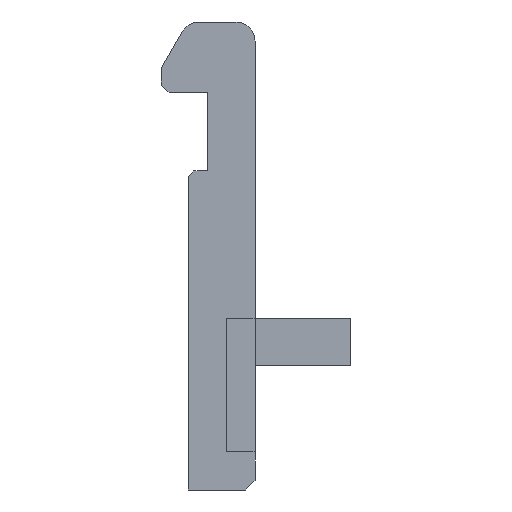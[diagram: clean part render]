
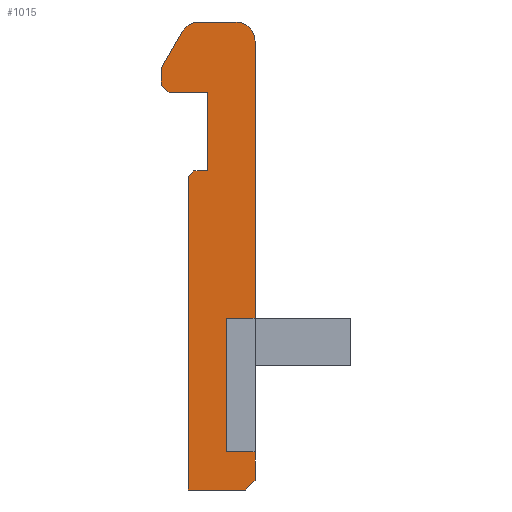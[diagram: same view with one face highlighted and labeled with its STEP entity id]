
A CAD part, front view. The second image highlights one B-rep face of the part: STEP entity #1015.
In plain terms, the highlighted planar face has unit normal (0, -1, 0).
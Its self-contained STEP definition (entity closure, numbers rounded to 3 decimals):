
#21 = VERTEX_POINT ( 'NONE', #244 ) ;
#25 = DIRECTION ( 'NONE',  ( 0., 0., -1. ) ) ;
#45 = CARTESIAN_POINT ( 'NONE',  ( -68.8, 50.05, 2. ) ) ;
#49 = VECTOR ( 'NONE', #1793, 1000. ) ;
#50 = CARTESIAN_POINT ( 'NONE',  ( -67.3, 50.05, 2. ) ) ;
#77 = VERTEX_POINT ( 'NONE', #1838 ) ;
#92 = CARTESIAN_POINT ( 'NONE',  ( -71.8, 50.05, 20.8 ) ) ;
#99 = DIRECTION ( 'NONE',  ( -1., 0., 0. ) ) ;
#101 = ORIENTED_EDGE ( 'NONE', *, *, #232, .T. ) ;
#201 = CARTESIAN_POINT ( 'NONE',  ( -69.8, 50.05, 20.8 ) ) ;
#227 = VERTEX_POINT ( 'NONE', #251 ) ;
#232 = EDGE_CURVE ( 'NONE', #959, #446, #1756, .T. ) ;
#233 = VERTEX_POINT ( 'NONE', #2008 ) ;
#244 = CARTESIAN_POINT ( 'NONE',  ( -72.2, 50.05, 22.1 ) ) ;
#251 = CARTESIAN_POINT ( 'NONE',  ( -67.3, 50.05, 0.5 ) ) ;
#293 = LINE ( 'NONE', #1269, #677 ) ;
#320 = EDGE_CURVE ( 'NONE', #388, #352, #1831, .T. ) ;
#321 = VERTEX_POINT ( 'NONE', #808 ) ;
#352 = VERTEX_POINT ( 'NONE', #1062 ) ;
#359 = DIRECTION ( 'NONE',  ( 0., 0., 1. ) ) ;
#370 = ORIENTED_EDGE ( 'NONE', *, *, #966, .T. ) ;
#388 = VERTEX_POINT ( 'NONE', #1730 ) ;
#400 = CARTESIAN_POINT ( 'NONE',  ( -69.8, 50.05, 16.7 ) ) ;
#405 = VECTOR ( 'NONE', #1283, 1000. ) ;
#429 = CARTESIAN_POINT ( 'NONE',  ( -67.3, 50.05, 9. ) ) ;
#430 = VERTEX_POINT ( 'NONE', #1437 ) ;
#438 = CARTESIAN_POINT ( 'NONE',  ( -72.2, 50.05, 21.2 ) ) ;
#446 = VERTEX_POINT ( 'NONE', #1677 ) ;
#529 = EDGE_CURVE ( 'NONE', #926, #815, #2028, .T. ) ;
#533 = ORIENTED_EDGE ( 'NONE', *, *, #320, .T. ) ;
#534 = ORIENTED_EDGE ( 'NONE', *, *, #529, .T. ) ;
#536 = EDGE_CURVE ( 'NONE', #815, #233, #2012, .T. ) ;
#552 = EDGE_CURVE ( 'NONE', #1460, #1445, #1908, .T. ) ;
#567 = EDGE_CURVE ( 'NONE', #1032, #21, #1909, .T. ) ;
#571 = DIRECTION ( 'NONE',  ( 0.707, 0., -0.707 ) ) ;
#612 = ORIENTED_EDGE ( 'NONE', *, *, #741, .T. ) ;
#629 = CARTESIAN_POINT ( 'NONE',  ( -71.8, 50.05, 20.8 ) ) ;
#656 = EDGE_CURVE ( 'NONE', #321, #977, #293, .T. ) ;
#658 = EDGE_CURVE ( 'NONE', #1262, #430, #1401, .T. ) ;
#676 = CARTESIAN_POINT ( 'NONE',  ( -70.237, 50.05, 23.5 ) ) ;
#677 = VECTOR ( 'NONE', #1287, 1000. ) ;
#686 = ORIENTED_EDGE ( 'NONE', *, *, #913, .T. ) ;
#688 = VECTOR ( 'NONE', #1429, 1000. ) ;
#690 = VERTEX_POINT ( 'NONE', #1693 ) ;
#699 = CARTESIAN_POINT ( 'NONE',  ( -67.3, 50.05, 23.5 ) ) ;
#702 = DIRECTION ( 'NONE',  ( -0.5, 0., -0.866 ) ) ;
#719 = EDGE_CURVE ( 'NONE', #1445, #690, #1233, .T. ) ;
#741 = EDGE_CURVE ( 'NONE', #690, #77, #1640, .T. ) ;
#774 = CARTESIAN_POINT ( 'NONE',  ( -72.2, 50.05, 22.1 ) ) ;
#786 = EDGE_CURVE ( 'NONE', #233, #959, #1596, .T. ) ;
#800 = CARTESIAN_POINT ( 'NONE',  ( -68.8, 50.05, 2. ) ) ;
#808 = CARTESIAN_POINT ( 'NONE',  ( -70.5, 50.05, 16.7 ) ) ;
#811 = LINE ( 'NONE', #1029, #989 ) ;
#815 = VERTEX_POINT ( 'NONE', #800 ) ;
#825 = EDGE_CURVE ( 'NONE', #977, #1262, #1547, .T. ) ;
#831 = CIRCLE ( 'NONE', #1282, 1. ) ;
#835 = LINE ( 'NONE', #931, #844 ) ;
#838 = CIRCLE ( 'NONE', #1316, 1. ) ;
#844 = VECTOR ( 'NONE', #1235, 1000. ) ;
#846 = EDGE_CURVE ( 'NONE', #430, #227, #835, .T. ) ;
#848 = EDGE_CURVE ( 'NONE', #446, #388, #831, .T. ) ;
#854 = DIRECTION ( 'NONE',  ( -1., 0., 0. ) ) ;
#868 = PLANE ( 'NONE',  #1374 ) ;
#881 = CARTESIAN_POINT ( 'NONE',  ( -70.8, 50.05, 16.4 ) ) ;
#887 = EDGE_CURVE ( 'NONE', #227, #926, #1561, .T. ) ;
#894 = CARTESIAN_POINT ( 'NONE',  ( -70.237, 50.05, 24.5 ) ) ;
#913 = EDGE_CURVE ( 'NONE', #352, #1032, #838, .T. ) ;
#918 = DIRECTION ( 'NONE',  ( 0., 0., -1. ) ) ;
#920 = EDGE_CURVE ( 'NONE', #21, #1460, #1833, .T. ) ;
#926 = VERTEX_POINT ( 'NONE', #50 ) ;
#931 = CARTESIAN_POINT ( 'NONE',  ( -67.3, 50.05, 0.5 ) ) ;
#936 = VECTOR ( 'NONE', #1306, 1000. ) ;
#937 = CARTESIAN_POINT ( 'NONE',  ( -68.3, 50.05, 23.5 ) ) ;
#951 = CARTESIAN_POINT ( 'NONE',  ( -70.8, 50.05, 0. ) ) ;
#959 = VERTEX_POINT ( 'NONE', #1900 ) ;
#963 = ORIENTED_EDGE ( 'NONE', *, *, #887, .T. ) ;
#966 = EDGE_CURVE ( 'NONE', #77, #321, #811, .T. ) ;
#975 = ORIENTED_EDGE ( 'NONE', *, *, #658, .T. ) ;
#977 = VERTEX_POINT ( 'NONE', #881 ) ;
#978 = ORIENTED_EDGE ( 'NONE', *, *, #536, .T. ) ;
#989 = VECTOR ( 'NONE', #1938, 1000. ) ;
#1007 = DIRECTION ( 'NONE',  ( 0., -1., 0. ) ) ;
#1015 = ADVANCED_FACE ( 'NONE', ( #1201 ), #868, .F. ) ;
#1029 = CARTESIAN_POINT ( 'NONE',  ( -70.5, 50.05, 16.7 ) ) ;
#1032 = VERTEX_POINT ( 'NONE', #1051 ) ;
#1051 = CARTESIAN_POINT ( 'NONE',  ( -71.103, 50.05, 24. ) ) ;
#1062 = CARTESIAN_POINT ( 'NONE',  ( -70.237, 50.05, 24.5 ) ) ;
#1083 = DIRECTION ( 'NONE',  ( 0., 0., 1. ) ) ;
#1146 = EDGE_LOOP ( 'NONE', ( #1194, #612, #370, #1368, #1301, #975, #1295, #963, #534, #978, #1363, #101, #1239, #533, #686, #1170, #1304, #1511 ) ) ;
#1170 = ORIENTED_EDGE ( 'NONE', *, *, #567, .T. ) ;
#1194 = ORIENTED_EDGE ( 'NONE', *, *, #719, .T. ) ;
#1201 = FACE_OUTER_BOUND ( 'NONE', #1146, .T. ) ;
#1210 = DIRECTION ( 'NONE',  ( 0., -1., 0. ) ) ;
#1233 = LINE ( 'NONE', #201, #936 ) ;
#1235 = DIRECTION ( 'NONE',  ( 0.707, 0., 0.707 ) ) ;
#1239 = ORIENTED_EDGE ( 'NONE', *, *, #848, .T. ) ;
#1249 = CARTESIAN_POINT ( 'NONE',  ( -67.8, 50.05, 0. ) ) ;
#1262 = VERTEX_POINT ( 'NONE', #1360 ) ;
#1269 = CARTESIAN_POINT ( 'NONE',  ( -70.8, 50.05, 16.4 ) ) ;
#1282 = AXIS2_PLACEMENT_3D ( 'NONE', #937, #1210, #1083 ) ;
#1283 = DIRECTION ( 'NONE',  ( 1., 0., 0. ) ) ;
#1287 = DIRECTION ( 'NONE',  ( -0.707, 0., -0.707 ) ) ;
#1295 = ORIENTED_EDGE ( 'NONE', *, *, #846, .T. ) ;
#1301 = ORIENTED_EDGE ( 'NONE', *, *, #825, .T. ) ;
#1304 = ORIENTED_EDGE ( 'NONE', *, *, #920, .T. ) ;
#1306 = DIRECTION ( 'NONE',  ( 1., 0., 0. ) ) ;
#1316 = AXIS2_PLACEMENT_3D ( 'NONE', #1805, #1007, #1541 ) ;
#1360 = CARTESIAN_POINT ( 'NONE',  ( -70.8, 50.05, 0. ) ) ;
#1363 = ORIENTED_EDGE ( 'NONE', *, *, #786, .T. ) ;
#1368 = ORIENTED_EDGE ( 'NONE', *, *, #656, .T. ) ;
#1374 = AXIS2_PLACEMENT_3D ( 'NONE', #676, #2061, #1484 ) ;
#1401 = LINE ( 'NONE', #1249, #405 ) ;
#1429 = DIRECTION ( 'NONE',  ( 0., 0., 1. ) ) ;
#1437 = CARTESIAN_POINT ( 'NONE',  ( -67.8, 50.05, 0. ) ) ;
#1445 = VERTEX_POINT ( 'NONE', #92 ) ;
#1460 = VERTEX_POINT ( 'NONE', #438 ) ;
#1484 = DIRECTION ( 'NONE',  ( 0., 0., 1. ) ) ;
#1501 = CARTESIAN_POINT ( 'NONE',  ( -68.8, 50.05, 9. ) ) ;
#1506 = DIRECTION ( 'NONE',  ( 0., 0., 1. ) ) ;
#1511 = ORIENTED_EDGE ( 'NONE', *, *, #552, .T. ) ;
#1538 = VECTOR ( 'NONE', #918, 1000. ) ;
#1541 = DIRECTION ( 'NONE',  ( 0., 0., 1. ) ) ;
#1547 = LINE ( 'NONE', #951, #1538 ) ;
#1561 = LINE ( 'NONE', #1580, #688 ) ;
#1580 = CARTESIAN_POINT ( 'NONE',  ( -67.3, 50.05, 2. ) ) ;
#1582 = VECTOR ( 'NONE', #1628, 1000. ) ;
#1596 = LINE ( 'NONE', #429, #1582 ) ;
#1628 = DIRECTION ( 'NONE',  ( 1., 0., 0. ) ) ;
#1640 = LINE ( 'NONE', #400, #1647 ) ;
#1647 = VECTOR ( 'NONE', #25, 1000. ) ;
#1677 = CARTESIAN_POINT ( 'NONE',  ( -67.3, 50.05, 23.5 ) ) ;
#1693 = CARTESIAN_POINT ( 'NONE',  ( -69.8, 50.05, 20.8 ) ) ;
#1730 = CARTESIAN_POINT ( 'NONE',  ( -68.3, 50.05, 24.5 ) ) ;
#1747 = VECTOR ( 'NONE', #359, 1000. ) ;
#1756 = LINE ( 'NONE', #699, #1747 ) ;
#1793 = DIRECTION ( 'NONE',  ( 0., 0., -1. ) ) ;
#1805 = CARTESIAN_POINT ( 'NONE',  ( -70.237, 50.05, 23.5 ) ) ;
#1831 = LINE ( 'NONE', #894, #1847 ) ;
#1833 = LINE ( 'NONE', #2055, #49 ) ;
#1838 = CARTESIAN_POINT ( 'NONE',  ( -69.8, 50.05, 16.7 ) ) ;
#1847 = VECTOR ( 'NONE', #854, 1000. ) ;
#1899 = VECTOR ( 'NONE', #571, 1000. ) ;
#1900 = CARTESIAN_POINT ( 'NONE',  ( -67.3, 50.05, 9. ) ) ;
#1908 = LINE ( 'NONE', #629, #1899 ) ;
#1909 = LINE ( 'NONE', #774, #1915 ) ;
#1915 = VECTOR ( 'NONE', #702, 1000. ) ;
#1938 = DIRECTION ( 'NONE',  ( -1., 0., 0. ) ) ;
#2008 = CARTESIAN_POINT ( 'NONE',  ( -68.8, 50.05, 9. ) ) ;
#2012 = LINE ( 'NONE', #1501, #2050 ) ;
#2028 = LINE ( 'NONE', #45, #2046 ) ;
#2046 = VECTOR ( 'NONE', #99, 1000. ) ;
#2050 = VECTOR ( 'NONE', #1506, 1000. ) ;
#2055 = CARTESIAN_POINT ( 'NONE',  ( -72.2, 50.05, 21.2 ) ) ;
#2061 = DIRECTION ( 'NONE',  ( 0., 1., 0. ) ) ;
